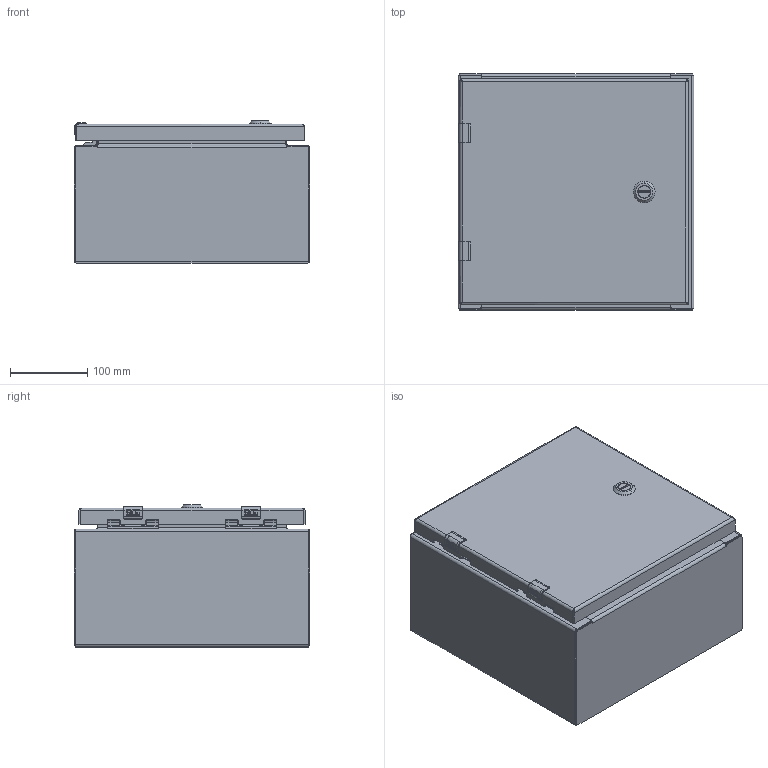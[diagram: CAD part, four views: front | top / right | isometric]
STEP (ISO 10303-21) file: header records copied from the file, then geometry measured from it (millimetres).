
FILE_DESCRIPTION((''),'2;1');
FILE_NAME('MODEL-306_ASM','2025-02-21T09:49:37',('johnh'),('SAGINAW CONTROL & ENGINEERING'),'CREO PARAMETRIC BY PTC INC, 2021284','CREO PARAMETRIC BY PTC INC, 2021284','');
FILE_SCHEMA(('AUTOMOTIVE_DESIGN { 1 0 10303 214 1 1 1 1 }'));
Length unit declared in the file: inch
Products named in the file (27): MODEL-306-BDY; MODEL-306-TP; MODEL-306-BTM; MODEL-306-DR; 100837; 100794_SHAFT; 100794_INSERT; 100794_CAM; 100794_NUT; 100794_SCREW; 100794_ASM; MODEL-306-DOOR-GASKET; 126392; 126392_ASM; 126395; 102483; 101226; 101389; 102140; 132757; MODEL-306-DOOR-ASSY_ASM; 101651; 122191; SUBPANEL; 100904; SUBPANEL-SUBASSEMBLY_ASM; MODEL-306_ASM
Assembly tree (44 placements, depth 4):
  MODEL-306_ASM
    MODEL-306-BDY
    MODEL-306-TP
    MODEL-306-BTM
    MODEL-306-DOOR-ASSY_ASM
      MODEL-306-DR
      100837
      100794_ASM
        100794_SHAFT
        100794_INSERT
        100794_CAM
        100794_NUT
        100794_SCREW
      MODEL-306-DOOR-GASKET
      126392_ASM  x2
        126392
      126395  x2
      102483  x6
      101226  x2
      101389  x2
      102140  x2
      132757  x2
    100837
    101651  x4
    122191
    SUBPANEL-SUBASSEMBLY_ASM
      SUBPANEL
      100904  x4
Bounding box: 304.8 x 304.8 x 183.53 mm (x, y, z)
Volume: 1149665.7 mm3; surface area: 1068762.7 mm2
Topology: 41 solids, 41 shells, 1947 faces, 4853 edges, 3036 vertices
Faces by surface type: plane 879, cylinder 607, torus 177, bspline 144, cone 96, sphere 44
Entity records: 61225 total; most frequent: CARTESIAN_POINT 13050, DIRECTION 6863, ORIENTED_EDGE 6558, PRESENTATION_STYLE_ASSIGNMENT 3475, EDGE_CURVE 3279, STYLED_ITEM 3200, CURVE_STYLE 3117, AXIS2_PLACEMENT_3D 2471
